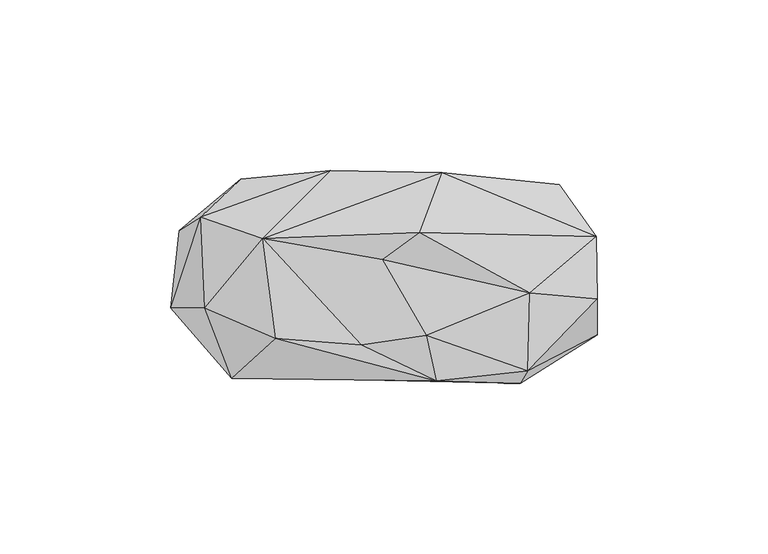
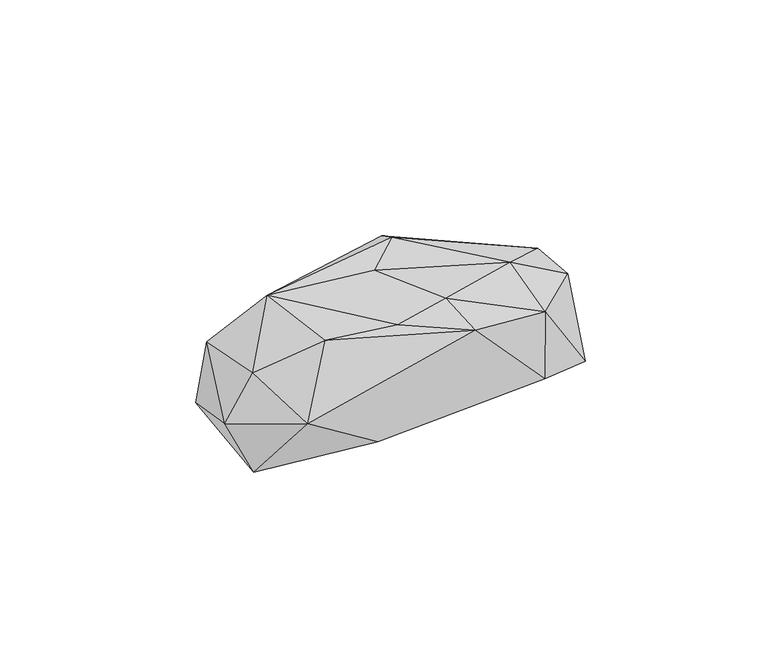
"""IFC4 building model written with IfcOpenShell, lengths in millimetres: geographic element geometry, Enscape AssetDefinition - Food 022 Pastry : Enscape AssetDefinition - Food 022 Pastry."""

from ifc_helpers import new_model, si_unit, origin, place, context, project, spatial, triangles, source, transform, mapped, element, save


def geographic_element_da99fc47(model_context):
    return source(origin(), model_context, "Body", "Tessellation", [
        triangles([(-54.9719989, 19.0960001, 31.8269999), (-53.7840036, -7.574, 35.8199997), (-61.2710012, 15.1130003, 13.3590002), (-63.8810027, -7.6449997, 20.0059986), (-56.7380021, -13.3440006, 2.4389999), (-50.3300039, 14.6620002, 1.0600001), (-45.8899996, -28.3189995, 26.3400006), (-33.0029978, -16.6340001, 46.5100017), (-20.8739984, -28.5069991, 10.7990002), (-43.2399979, 30.2290006, 18.064), (53.7959987, 11.85, 1.405), (61.0120008, 13.388, 30.439001), (1.793, 24.882, 8.4920002), (15.5959991, 32.1369987, 39.6960009), (50.1249973, 28.5969986, 19.6659985), (-16.9629998, 32.7469996, 29.1620009), (41.5199993, -3.2949998, 42.0919983), (8.9919997, 14.5299997, 52.0899982), (61.2820016, -4.9440001, 31.644001), (-36.7950015, 12.7269995, 47.1550023), (40.8279994, -26.1440006, 37.2110008), (11.0779995, -15.6490005, 46.3889971), (61.3129999, -15.6030004, 4.9080001), (-1.7989999, 6.6060001, 48.176002), (-7.9460005, -18.5310001, 44.787001), (13.966, -29.0070003, 41.3469993), (38.6120009, -29.7839992, 14.7110002)], [[23, 27, 9], [26, 9, 27], [25, 8, 26], [20, 8, 25], [25, 24, 20], [26, 22, 25], [24, 25, 22], [21, 26, 27], [27, 23, 21], [26, 21, 22], [21, 23, 19], [17, 21, 19], [22, 21, 17], [24, 22, 17], [20, 24, 18], [18, 24, 17], [16, 20, 14], [20, 18, 14], [12, 17, 19], [23, 12, 19], [14, 18, 12], [12, 18, 17], [15, 16, 14], [15, 14, 12], [13, 10, 16], [13, 16, 15], [11, 15, 12], [12, 23, 11], [11, 13, 15], [13, 6, 10], [6, 13, 11], [9, 5, 23], [6, 11, 5], [23, 5, 11], [9, 7, 5], [7, 9, 26], [7, 26, 8], [2, 8, 20], [2, 7, 8], [7, 2, 4], [7, 4, 5], [3, 10, 6], [5, 3, 6], [3, 5, 4], [20, 16, 1], [2, 20, 1], [10, 3, 1], [1, 4, 2], [1, 16, 10], [1, 3, 4]]),
    ])


if __name__ == "__main__":
    model = new_model("IFC4")
    model_context = context("Model", 3, world=origin())
    ifc_project = project(units=[si_unit("LENGTHUNIT", "METRE", prefix="MILLI")], contexts=[model_context])
    site = spatial("IfcSite", under=ifc_project)
    building = spatial("IfcBuilding", under=site)
    placement = place(None, origin())
    geographic_element_shape = geographic_element_da99fc47(model_context)
    element("IfcGeographicElement", 1, ObjectType="Enscape AssetDefinition - Food 022 Pastry : Enscape AssetDefinition - Food 022 Pastry", at=placement, inside=building, context=model_context, shape_type="MappedRepresentation", body=[
        mapped(geographic_element_shape, transform((0.0, 0.0, 0.0), x_axis=(1.0, 0.0, 0.0), y_axis=(0.0, 1.0, 0.0), z_axis=(0.0, 0.0, 1.0))),
    ])
    save(model, "model.ifc")
